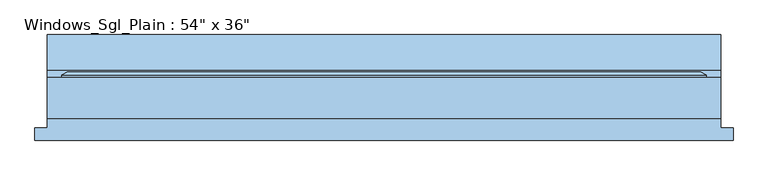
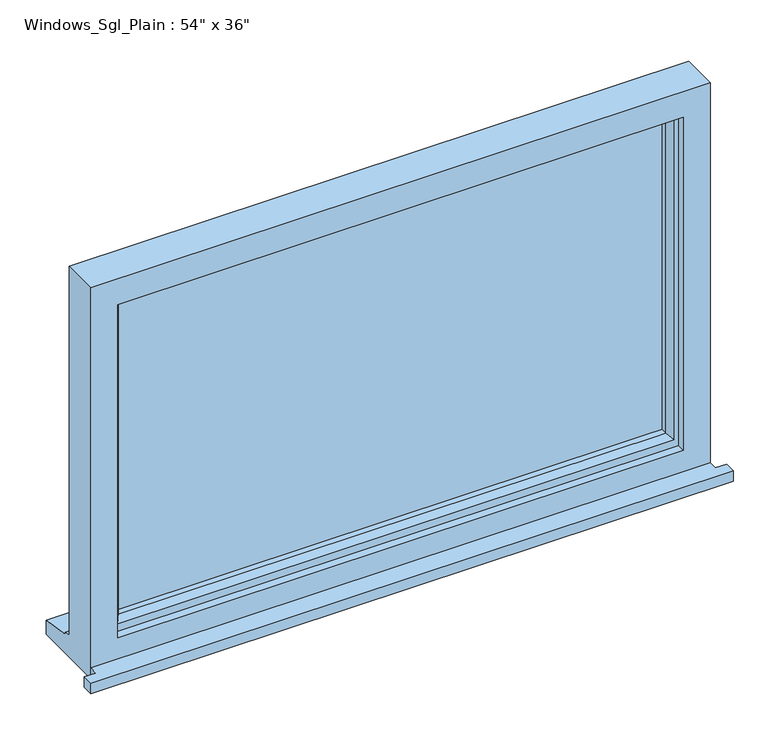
"""IFC4 building model written with IfcOpenShell, lengths in millimetres: window geometry."""

from ifc_helpers import new_model, si_unit, frame, origin, place, context, project, spatial, polyline, outline, extrude, faceted_brep, source, transform, mapped, element, save


def window_39ece2ce(model_context):
    return source(origin(), model_context, "Body", "SolidModel", [
        extrude(outline(polyline([(-710.8, -92.7434322), (-710.8, -67.7434322), (-685.8, -67.7434322), (-685.8, -48.3434322), (685.8, -48.3434322), (685.8, -67.7434322), (710.8, -67.7434322), (710.8, -92.7434322), (-710.8, -92.7434322)])), frame((0.0, 0.0, 1195.6), z_axis=(0.0, 0.0, 1.0), x_axis=(1.0, 0.0, 0.0)), (0.0, 0.0, 1.0), 25.0),
        faceted_brep([(-685.8, -48.3434322, 1195.6), (685.8, -48.3434322, 1195.6), (685.8, -48.3434322, 2110.0), (-685.8, -48.3434322, 2110.0), (-625.8, -48.3434322, 2050.0), (625.8, -48.3434322, 2050.0), (625.8, -48.3434322, 1270.6), (-625.8, -48.3434322, 1270.6), (-685.8, 34.6565678, 2110.0), (-685.8, 34.6565678, 1246.6), (-685.8, 49.6565678, 1245.28767), (-685.8, 49.6565678, 1240.3449676), (-685.8, 122.1565678, 1229.4088847), (-685.8, 122.1565678, 1195.6), (685.8, 34.6565678, 2110.0), (685.8, 34.6565678, 1246.6), (-645.8, 34.6565678, 2070.0), (-645.8, 34.6565678, 1258.6), (645.8, 34.6565678, 1258.6), (645.8, 34.6565678, 2070.0), (-645.8, -30.3434322, 2070.0), (-645.8, -30.3434322, 1258.6), (645.8, -30.3434322, 2070.0), (645.8, -30.3434322, 1258.6), (-625.8, -30.3434322, 2050.0), (-625.8, -30.3434322, 1270.6), (625.8, -30.3434322, 1270.6), (625.8, -30.3434322, 2050.0), (685.8, 122.1565678, 1195.6), (685.8, 122.1565678, 1229.4088847), (685.8, 49.6565678, 1240.3449676), (685.8, 49.6565678, 1245.28767)], [[[0, 1, 2, 3], [4, 5, 6, 7]], [[0, 3, 8, 9, 10, 11, 12, 13]], [[9, 8, 14, 15], [16, 17, 18, 19]], [[17, 16, 20, 21]], [[20, 22, 23, 21], [24, 25, 26, 27]], [[24, 4, 7, 25]], [[3, 2, 14, 8]], [[16, 19, 22, 20]], [[5, 4, 24, 27]], [[15, 14, 2, 1, 28, 29, 30, 31]], [[19, 18, 23, 22]], [[5, 27, 26, 6]], [[28, 1, 0, 13]], [[29, 28, 13, 12]], [[30, 29, 12, 11]], [[31, 30, 11, 10]], [[15, 31, 10, 9]], [[21, 23, 18, 17]], [[7, 6, 26, 25]]]),
        extrude(outline(polyline([(615.8, -1.3434322), (-615.8, -1.3434322), (-615.8, 22.6565678), (615.8, 22.6565678), (615.8, -1.3434322)])), frame((0.0, 0.0, 1288.6), z_axis=(0.0, 0.0, 1.0), x_axis=(1.0, 0.0, 0.0)), (0.0, 0.0, 1.0), 751.4),
        faceted_brep([(-655.8, 34.6565678, 2080.0), (-655.8, 40.4300705, 2080.0), (-655.8, 40.4300705, 1248.6), (-655.8, 34.6565678, 1248.6), (-645.8, -30.3434322, 2070.0), (-645.8, 34.6565678, 2070.0), (-645.8, 34.6565678, 1258.6), (-645.8, -30.3434322, 1258.6), (-605.8, -15.8505323, 2030.0), (-615.9480377, -30.3434322, 2040.1480377), (-615.9480377, -30.3434322, 1288.4519623), (-605.8, -15.8505323, 1298.6), (-605.8, -1.3434322, 2030.0), (-605.8, -1.3434322, 1298.6), (-615.8, 22.6565678, 2040.0), (-615.8, -1.3434322, 2040.0), (-615.8, -1.3434322, 1288.6), (-615.8, 22.6565678, 1288.6), (-605.8, 40.4300705, 2030.0), (-605.8, 22.6565678, 2030.0), (-605.8, 22.6565678, 1298.6), (-605.8, 40.4300705, 1298.6), (-623.2457548, 46.2035732, 2047.4457548), (-623.2457548, 46.2035732, 1281.1542452), (-645.0153903, 46.2035732, 2069.2153903), (-645.0153903, 46.2035732, 1259.3846097), (655.8, 40.4300705, 1248.6), (655.8, 34.6565678, 1248.6), (645.8, 34.6565678, 1258.6), (645.8, -30.3434322, 1258.6), (615.9480377, -30.3434322, 1288.4519623), (605.8, -15.8505323, 1298.6), (605.8, -1.3434322, 1298.6), (615.8, -1.3434322, 1288.6), (615.8, 22.6565678, 1288.6), (605.8, 22.6565678, 1298.6), (605.8, 40.4300705, 1298.6), (623.2457548, 46.2035732, 1281.1542452), (645.0153903, 46.2035732, 1259.3846097), (655.8, 40.4300705, 2080.0), (655.8, 34.6565678, 2080.0), (645.8, 34.6565678, 2070.0), (645.8, -30.3434322, 2070.0), (615.9480377, -30.3434322, 2040.1480377), (605.8, -15.8505323, 2030.0), (605.8, -1.3434322, 2030.0), (615.8, -1.3434322, 2040.0), (615.8, 22.6565678, 2040.0), (605.8, 22.6565678, 2030.0), (605.8, 40.4300705, 2030.0), (623.2457548, 46.2035732, 2047.4457548), (645.0153903, 46.2035732, 2069.2153903)], [[[0, 1, 2, 3]], [[4, 5, 6, 7]], [[8, 9, 10, 11]], [[12, 8, 11, 13]], [[14, 15, 16, 17]], [[18, 19, 20, 21]], [[22, 18, 21, 23]], [[1, 24, 25, 2]], [[3, 2, 26, 27]], [[7, 6, 28, 29]], [[11, 10, 30, 31]], [[13, 11, 31, 32]], [[17, 16, 33, 34]], [[21, 20, 35, 36]], [[23, 21, 36, 37]], [[2, 25, 38, 26]], [[27, 26, 39, 40]], [[29, 28, 41, 42]], [[31, 30, 43, 44]], [[32, 31, 44, 45]], [[34, 33, 46, 47]], [[36, 35, 48, 49]], [[37, 36, 49, 50]], [[26, 38, 51, 39]], [[40, 39, 1, 0]], [[3, 27, 40, 0], [5, 41, 28, 6]], [[42, 41, 5, 4]], [[7, 29, 42, 4], [9, 43, 30, 10]], [[44, 43, 9, 8]], [[45, 44, 8, 12]], [[15, 46, 33, 16], [13, 32, 45, 12]], [[47, 46, 15, 14]], [[17, 34, 47, 14], [19, 48, 35, 20]], [[49, 48, 19, 18]], [[50, 49, 18, 22]], [[24, 51, 38, 25], [23, 37, 50, 22]], [[39, 51, 24, 1]]]),
    ])


if __name__ == "__main__":
    model = new_model("IFC4")
    model_context = context("Model", 3, world=origin())
    ifc_project = project(units=[si_unit("LENGTHUNIT", "METRE", prefix="MILLI")], contexts=[model_context])
    site = spatial("IfcSite", under=ifc_project)
    building = spatial("IfcBuilding", under=site)
    placement = place(None, origin())
    window_shape = window_39ece2ce(model_context)
    element("IfcWindow", 1, ObjectType="Windows_Sgl_Plain : 54\" x 36\"", at=placement, inside=building, context=model_context, shape_type="MappedRepresentation", body=[
        mapped(window_shape, transform((0.0, 0.0, 0.0), x_axis=(1.0, 0.0, 0.0), y_axis=(0.0, 1.0, 0.0), z_axis=(0.0, 0.0, 1.0))),
    ])
    save(model, "model.ifc")
